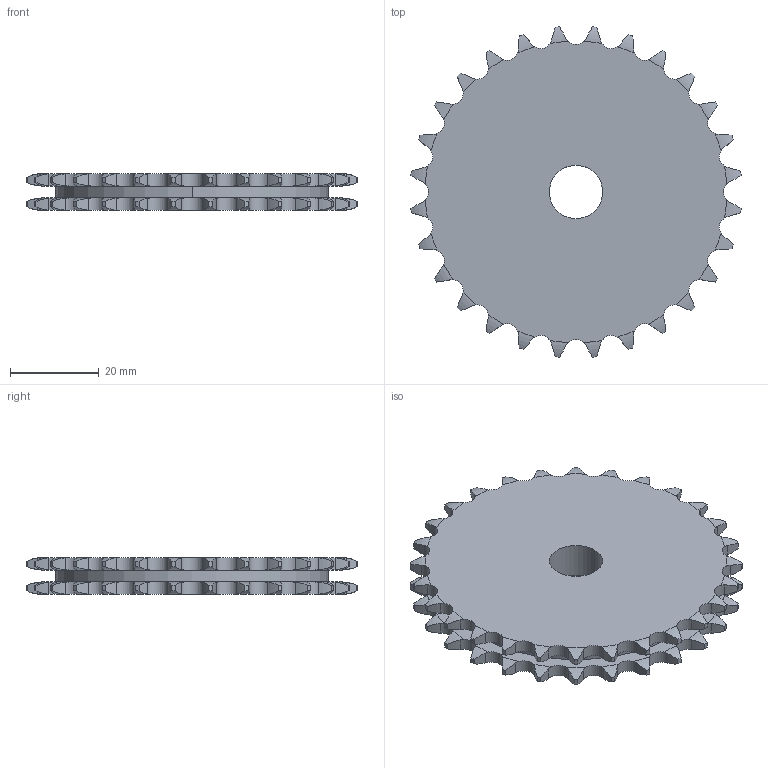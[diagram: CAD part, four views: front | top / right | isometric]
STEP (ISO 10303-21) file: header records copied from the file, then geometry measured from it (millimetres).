
FILE_DESCRIPTION((''),'2;1');
FILE_NAME('500-082-0028_PRT','2021-02-12T',('Brieden'),('Brieden'),'PRO/ENGINEER BY PARAMETRIC TECHNOLOGY CORPORATION, 2010160','PRO/ENGINEER BY PARAMETRIC TECHNOLOGY CORPORATION, 2010160','');
FILE_SCHEMA(('AUTOMOTIVE_DESIGN { 1 0 10303 214 1 1 1 1 }'));
Length unit declared in the file: millimetre
Products named in the file (1): 500-082-0028_PRT
Bounding box: 74.42 x 74.42 x 8.3 mm (x, y, z)
Volume: 28234.1 mm3; surface area: 11601.5 mm2
Topology: 1 solids, 1 shells, 344 faces, 1020 edges, 680 vertices
Faces by surface type: cylinder 228, torus 112, plane 4
Entity records: 16532 total; most frequent: CARTESIAN_POINT 4733, ORIENTED_EDGE 2040, DIRECTION 1604, PRESENTATION_STYLE_ASSIGNMENT 1021, STYLED_ITEM 1021, CURVE_STYLE 1020, EDGE_CURVE 1020, AXIS2_PLACEMENT_3D 688
